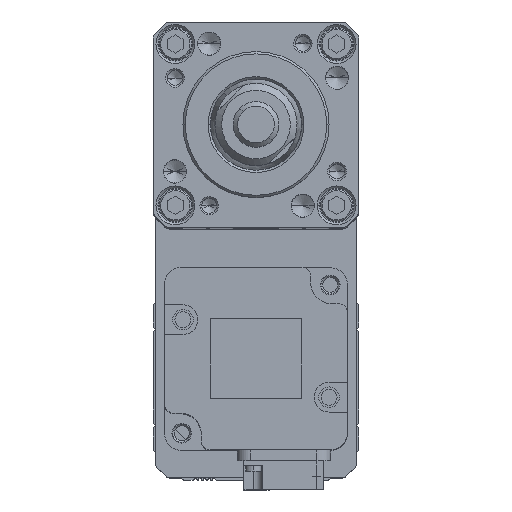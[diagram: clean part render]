
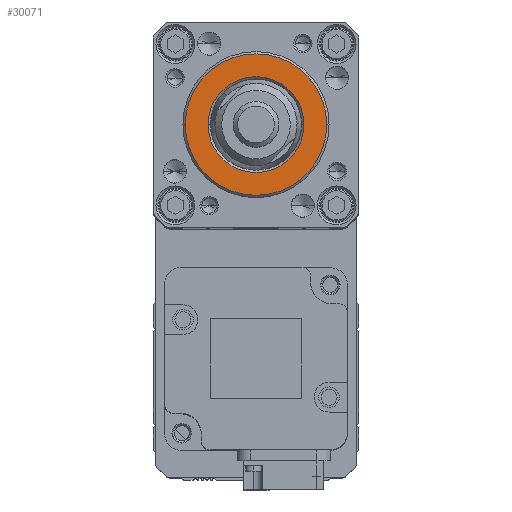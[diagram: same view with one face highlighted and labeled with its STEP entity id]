
A CAD part, top view. The second image highlights one B-rep face of the part: STEP entity #30071.
In plain terms, the highlighted planar face has unit normal (0, 0, 1).
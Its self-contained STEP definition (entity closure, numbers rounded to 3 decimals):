
#41 = VERTEX_POINT ( 'NONE', #15972 ) ;
#1298 = DIRECTION ( 'NONE',  ( 1., 0., 0. ) ) ;
#2923 = CIRCLE ( 'NONE', #29760, 15.5 ) ;
#3669 = ORIENTED_EDGE ( 'NONE', *, *, #24518, .T. ) ;
#4365 = PLANE ( 'NONE',  #28067 ) ;
#4489 = CARTESIAN_POINT ( 'NONE',  ( 0., 0., 207. ) ) ;
#4502 = VERTEX_POINT ( 'NONE', #24849 ) ;
#6083 = CARTESIAN_POINT ( 'NONE',  ( 0., 0., 207. ) ) ;
#6184 = DIRECTION ( 'NONE',  ( 0., 0., -1. ) ) ;
#6987 = DIRECTION ( 'NONE',  ( 0., 0., 1. ) ) ;
#7102 = AXIS2_PLACEMENT_3D ( 'NONE', #21220, #6184, #23730 ) ;
#8178 = VERTEX_POINT ( 'NONE', #19348 ) ;
#8599 = DIRECTION ( 'NONE',  ( 1., 0., 0. ) ) ;
#9851 = CARTESIAN_POINT ( 'NONE',  ( 0., 0., 207. ) ) ;
#10060 = AXIS2_PLACEMENT_3D ( 'NONE', #31342, #16343, #1298 ) ;
#10292 = CIRCLE ( 'NONE', #7102, 10.5 ) ;
#10859 = CIRCLE ( 'NONE', #11478, 10.5 ) ;
#11478 = AXIS2_PLACEMENT_3D ( 'NONE', #6083, #23616, #8599 ) ;
#12355 = DIRECTION ( 'NONE',  ( 1., 0., 0. ) ) ;
#14783 = EDGE_LOOP ( 'NONE', ( #3669, #23809 ) ) ;
#15962 = CIRCLE ( 'NONE', #10060, 15.5 ) ;
#15972 = CARTESIAN_POINT ( 'NONE',  ( -10.5, 0., 207. ) ) ;
#16343 = DIRECTION ( 'NONE',  ( 0., 0., 1. ) ) ;
#18453 = EDGE_LOOP ( 'NONE', ( #22885, #18773 ) ) ;
#18621 = FACE_OUTER_BOUND ( 'NONE', #14783, .T. ) ;
#18773 = ORIENTED_EDGE ( 'NONE', *, *, #24946, .T. ) ;
#19348 = CARTESIAN_POINT ( 'NONE',  ( 10.5, 0., 207. ) ) ;
#21220 = CARTESIAN_POINT ( 'NONE',  ( 0., 0., 207. ) ) ;
#21353 = VERTEX_POINT ( 'NONE', #31895 ) ;
#22885 = ORIENTED_EDGE ( 'NONE', *, *, #23292, .T. ) ;
#23292 = EDGE_CURVE ( 'NONE', #8178, #41, #10859, .T. ) ;
#23616 = DIRECTION ( 'NONE',  ( 0., 0., -1. ) ) ;
#23730 = DIRECTION ( 'NONE',  ( 1., 0., 0. ) ) ;
#23809 = ORIENTED_EDGE ( 'NONE', *, *, #30174, .T. ) ;
#24518 = EDGE_CURVE ( 'NONE', #21353, #4502, #15962, .T. ) ;
#24525 = DIRECTION ( 'NONE',  ( 1., 0., 0. ) ) ;
#24849 = CARTESIAN_POINT ( 'NONE',  ( 15.5, 0., 207. ) ) ;
#24946 = EDGE_CURVE ( 'NONE', #41, #8178, #10292, .T. ) ;
#27397 = DIRECTION ( 'NONE',  ( 0., 0., 1. ) ) ;
#28067 = AXIS2_PLACEMENT_3D ( 'NONE', #4489, #6987, #24525 ) ;
#29760 = AXIS2_PLACEMENT_3D ( 'NONE', #9851, #27397, #12355 ) ;
#30071 = ADVANCED_FACE ( 'NONE', ( #31976, #18621 ), #4365, .T. ) ;
#30174 = EDGE_CURVE ( 'NONE', #4502, #21353, #2923, .T. ) ;
#31342 = CARTESIAN_POINT ( 'NONE',  ( 0., 0., 207. ) ) ;
#31895 = CARTESIAN_POINT ( 'NONE',  ( -15.5, 0., 207. ) ) ;
#31976 = FACE_BOUND ( 'NONE', #18453, .T. ) ;
